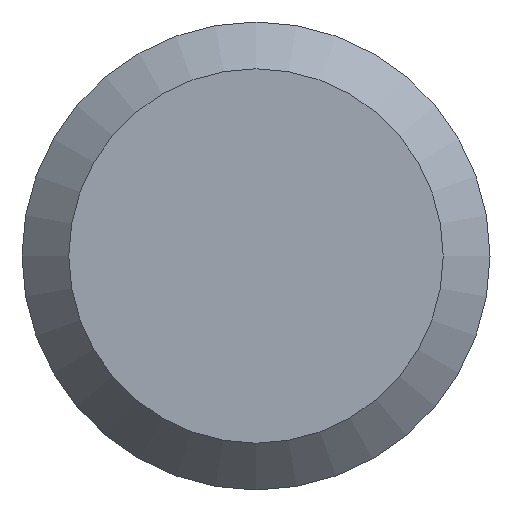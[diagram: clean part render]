
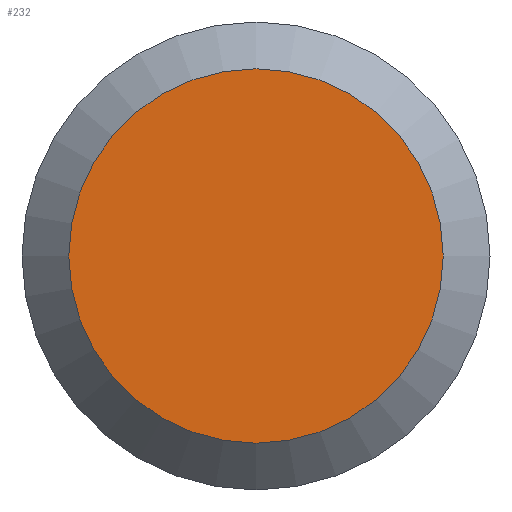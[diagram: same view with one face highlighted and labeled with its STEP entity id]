
A CAD part, left-side view. The second image highlights one B-rep face of the part: STEP entity #232.
In plain terms, the highlighted planar face has unit normal (-1, 0, 0).
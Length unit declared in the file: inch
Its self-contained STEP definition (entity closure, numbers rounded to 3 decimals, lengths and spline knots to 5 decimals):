
#7 = DIRECTION ( 'NONE',  ( 0., 0., -1. ) ) ;
#8 = DIRECTION ( 'NONE',  ( -1., 0., 0. ) ) ;
#26 = CARTESIAN_POINT ( 'NONE',  ( 0., 0., 0. ) ) ;
#30 = EDGE_LOOP ( 'NONE', ( #42 ) ) ;
#42 = ORIENTED_EDGE ( 'NONE', *, *, #159, .T. ) ;
#46 = VERTEX_POINT ( 'NONE', #67 ) ;
#67 = CARTESIAN_POINT ( 'NONE',  ( 0., 0., -0.0598 ) ) ;
#84 = FACE_OUTER_BOUND ( 'NONE', #30, .T. ) ;
#94 = DIRECTION ( 'NONE',  ( 1., 0., 0. ) ) ;
#104 = DIRECTION ( 'NONE',  ( 0., 0., -1. ) ) ;
#109 = AXIS2_PLACEMENT_3D ( 'NONE', #179, #94, #104 ) ;
#120 = PLANE ( 'NONE',  #109 ) ;
#126 = CIRCLE ( 'NONE', #146, 0.0598 ) ;
#146 = AXIS2_PLACEMENT_3D ( 'NONE', #26, #8, #7 ) ;
#159 = EDGE_CURVE ( 'NONE', #46, #46, #126, .T. ) ;
#179 = CARTESIAN_POINT ( 'NONE',  ( 0., 0.07475, 0. ) ) ;
#232 = ADVANCED_FACE ( 'NONE', ( #84 ), #120, .F. ) ;
